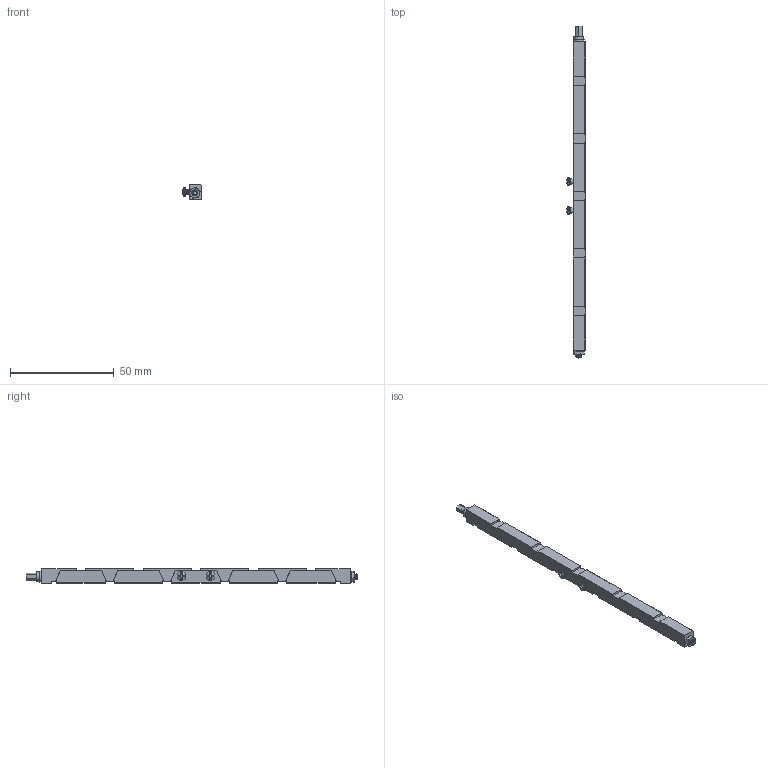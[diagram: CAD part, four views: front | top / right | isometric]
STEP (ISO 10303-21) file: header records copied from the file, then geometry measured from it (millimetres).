
FILE_DESCRIPTION (( 'STEP AP203' ), '1' );
FILE_NAME ('250-11 2-56 Side B.STEP', '2022-08-19T15:40:29', ( '' ), ( '' ), 'SwSTEP 2.0', 'SolidWorks 2021', '' );
FILE_SCHEMA (( 'CONFIG_CONTROL_DESIGN' ));
Length unit declared in the file: inch
Products named in the file (10): NAS620C4; 250-11 2-56 Side B; IL-250#-RW; IL-250#-LW; NAS671C4; IL-250#-M2W; IL-250#-MAW; IL-250TB_11; U-256-1; MS51957-1
Assembly tree (18 placements, depth 2):
  250-11 2-56 Side B
    IL-250#-RW
    IL-250#-LW
    MS51957-1  x2
    NAS620C4
    IL-250#-MAW  x8
    IL-250#-M2W
    IL-250TB_11
    U-256-1  x2
    NAS671C4
Bounding box: 9 x 159.77 x 7.02 mm (x, y, z)
Volume: 5025.4 mm3; surface area: 9133.5 mm2
Topology: 18 solids, 18 shells, 581 faces, 1555 edges, 1018 vertices
Faces by surface type: plane 248, cylinder 239, cone 54, bspline 28, torus 8, sphere 4
Entity records: 17438 total; most frequent: CARTESIAN_POINT 8644, ORIENTED_EDGE 1792, DIRECTION 1355, EDGE_CURVE 896, VERTEX_POINT 585, AXIS2_PLACEMENT_3D 482, LINE 391, VECTOR 391
